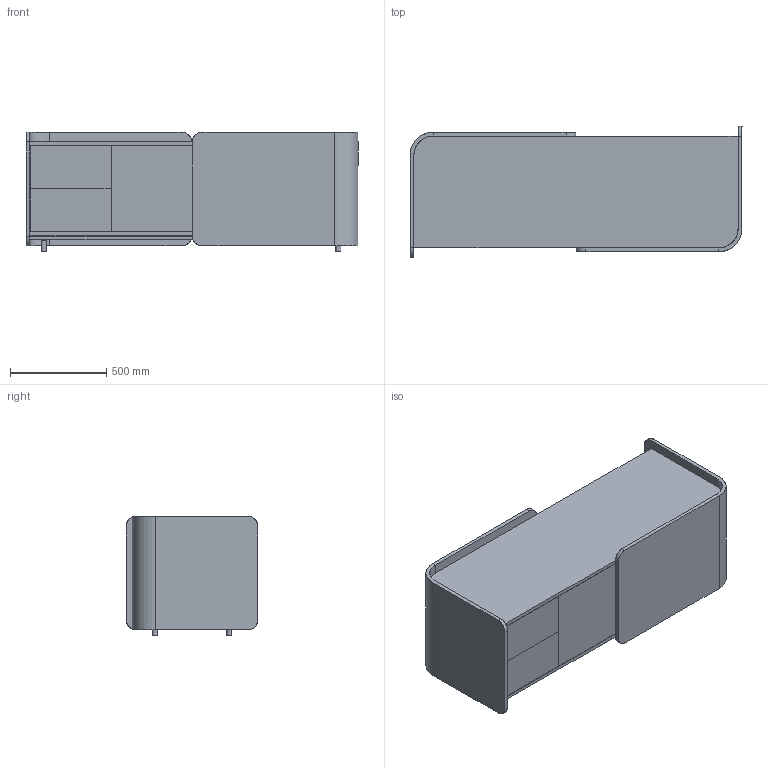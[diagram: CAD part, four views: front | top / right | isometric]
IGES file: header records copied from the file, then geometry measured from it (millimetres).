
Global section: file name: /Volumes/SERVER1/NUOVO/AZIENDE ITALIA/QUINTI/2025/DRESSCAB/math/DRESSCAB2.igs; native system: Rhinoceros ( Nov 21 2023 ); preprocessor: Trout Lake IGES 012 Nov 21 2023; date: 250430.114547; units: millimetre
Bounding box: 1724.46 x 680.7 x 620.21 mm (x, y, z)
Surface area: 12055747 mm2 (no closed solid volume)
Topology: 0 solids, 0 shells, 125 faces, 950 edges, 948 vertices
Faces by surface type: bspline 125
